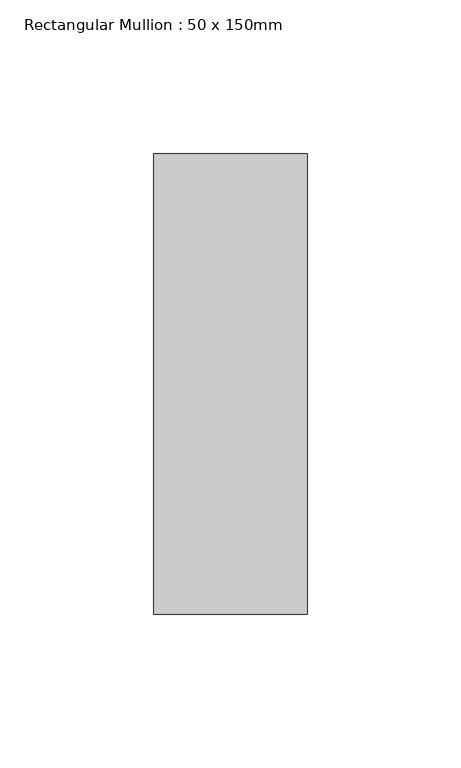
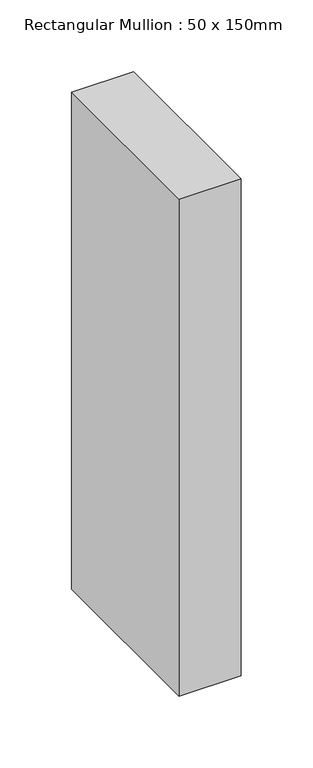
"""IFC4 building model written with IfcOpenShell, lengths in millimetres: member geometry, Rectangular Mullion : 50 x 150mm."""

import ifcopenshell
import ifcopenshell.guid

model = None  # the IFC model being written
_history = None  # IfcOwnerHistory: only IFC2X3 demands one
_inside = {}  # id of a spatial element -> (the spatial element, [elements in it])
_under = {}  # id of a project, library or spatial element -> (it, [spatial elements below it])
_declared = {}  # id of a project -> (the project, [libraries it declares])
_typed = {}  # id of a type object -> (the type object, [elements of that type])
_made_of = {}  # id of a material, layer set ... -> (it, [elements and type objects made of it])


def new_model(schema):
    """Start an empty IFC model of exactly this schema.

    Asked for "IFC4X3", IfcOpenShell would pick the latest addendum, in which some entities
    have other attributes; the version numbers below select the first issue.
    IFC2X3 requires an IfcOwnerHistory on every rooted entity: one is made here for all.
    """
    global model, _history
    if schema == "IFC4X3":
        model = ifcopenshell.file(schema_version=(4, 3, 0, 0))
    else:
        model = ifcopenshell.file(schema=schema)
    _inside.clear()
    _under.clear()
    _declared.clear()
    _typed.clear()
    _made_of.clear()
    _history = None
    if model.schema == "IFC2X3":
        org = make("IfcOrganization", Name="unknown")
        user = make(
            "IfcPersonAndOrganization",
            ThePerson=make("IfcPerson", FamilyName="unknown"),
            TheOrganization=org,
        )
        app = make(
            "IfcApplication",
            ApplicationDeveloper=org,
            Version="unknown",
            ApplicationFullName="unknown",
            ApplicationIdentifier="unknown",
        )
        _history = make(
            "IfcOwnerHistory",
            OwningUser=user,
            OwningApplication=app,
            ChangeAction="ADDED",
            CreationDate=0,
        )
    return model


def make(cls, **values):
    """One entity of the class cls with the attributes given. An attribute that is None is left unset."""
    return model.create_entity(
        cls, **{name: value for name, value in values.items() if value is not None}
    )


def rooted(cls, **values):
    """An entity with a GlobalId (a new one), such as an element, a storey or a relation."""
    return make(cls, GlobalId=ifcopenshell.guid.new(), OwnerHistory=_history, **values)


def si_unit(unit_type, name, prefix=None):
    """IfcSIUnit, for example si_unit("LENGTHUNIT", "METRE", prefix="MILLI")."""
    return make("IfcSIUnit", UnitType=unit_type, Prefix=prefix, Name=name)


def assignment(units):
    """IfcUnitAssignment: the units of a project."""
    return None if units is None else make("IfcUnitAssignment", Units=units)


def point(xyz):
    """IfcCartesianPoint."""
    return None if xyz is None else make("IfcCartesianPoint", Coordinates=xyz)


def direction(xyz):
    """IfcDirection."""
    return None if xyz is None else make("IfcDirection", DirectionRatios=xyz)


def frame(location, z_axis=None, x_axis=None):
    """IfcAxis2Placement3D, a coordinate frame: its origin and axes. An axis left out is left unset."""
    return make(
        "IfcAxis2Placement3D",
        Location=point(location),
        Axis=direction(z_axis),
        RefDirection=direction(x_axis),
    )


def origin():
    """The frame at (0, 0, 0) with its axes left unset."""
    return frame((0.0, 0.0, 0.0))


def place(relative_to, where):
    """IfcLocalPlacement: puts the frame where relative to a parent placement (None: the world)."""
    return make(
        "IfcLocalPlacement", PlacementRelTo=relative_to, RelativePlacement=where
    )


def context(
    kind, dimensions, precision=None, world=None, true_north=None, identifier=None
):
    """IfcGeometricRepresentationContext, for example the 3D "Model" context."""
    return make(
        "IfcGeometricRepresentationContext",
        ContextIdentifier=identifier,
        ContextType=kind,
        CoordinateSpaceDimension=dimensions,
        Precision=precision,
        WorldCoordinateSystem=world,
        TrueNorth=true_north,
    )


def project(units=None, contexts=None):
    """IfcProject with its units and contexts."""
    return rooted(
        "IfcProject",
        Name="project",
        RepresentationContexts=contexts,
        UnitsInContext=assignment(units),
    )


def spatial(cls, under=None, at=None, **own):
    """A site, building, storey or space (cls), placed at a placement, below another one or the project."""
    s = rooted(cls, ObjectPlacement=at, **own)
    if under is not None:
        _under.setdefault(under.id(), (under, []))[1].append(s)
    return s


def polyline(points):
    """IfcPolyline through the points."""
    return make("IfcPolyline", Points=[point(p) for p in points])


def outline(outer, holes=None, kind="AREA"):
    """IfcArbitraryClosedProfileDef: a profile drawn as a closed curve; with holes, ...WithVoids."""
    if holes is None:
        return make("IfcArbitraryClosedProfileDef", ProfileType=kind, OuterCurve=outer)
    return make(
        "IfcArbitraryProfileDefWithVoids",
        ProfileType=kind,
        OuterCurve=outer,
        InnerCurves=holes,
    )


def extrude(swept, where, along, depth):
    """IfcExtrudedAreaSolid: the profile swept, set in the frame where, extruded along a direction by depth."""
    return make(
        "IfcExtrudedAreaSolid",
        SweptArea=swept,
        Position=where,
        ExtrudedDirection=direction(along),
        Depth=depth,
    )


def shape(context_of_items, identifier, shape_type, items):
    """IfcShapeRepresentation: the items that make up one representation, for example the "Body"."""
    return make(
        "IfcShapeRepresentation",
        ContextOfItems=context_of_items,
        RepresentationIdentifier=identifier,
        RepresentationType=shape_type,
        Items=items,
    )


def source(mapping_origin, context_of_items, identifier, shape_type, items):
    """IfcRepresentationMap: a shape defined once, which mapped items show again and again."""
    return make(
        "IfcRepresentationMap",
        MappingOrigin=mapping_origin,
        MappedRepresentation=shape(context_of_items, identifier, shape_type, items),
    )


def transform(
    local_origin,
    x_axis=None,
    y_axis=None,
    z_axis=None,
    scale=None,
    scale2=None,
    scale3=None,
    uniform=True,
):
    """IfcCartesianTransformationOperator3D, or its non-uniform kind. x_axis, y_axis, z_axis: its Axis1, 2, 3."""
    if uniform:
        return make(
            "IfcCartesianTransformationOperator3D",
            Axis1=direction(x_axis),
            Axis2=direction(y_axis),
            LocalOrigin=point(local_origin),
            Scale=scale,
            Axis3=direction(z_axis),
        )
    return make(
        "IfcCartesianTransformationOperator3DnonUniform",
        Axis1=direction(x_axis),
        Axis2=direction(y_axis),
        LocalOrigin=point(local_origin),
        Scale=scale,
        Axis3=direction(z_axis),
        Scale2=scale2,
        Scale3=scale3,
    )


def mapped(mapping_source, mapping_target):
    """IfcMappedItem: shows the shape of a source again, moved by a transform."""
    return make(
        "IfcMappedItem", MappingSource=mapping_source, MappingTarget=mapping_target
    )


def made_of(thing, what):
    """Note that an element or type object is made of a material, layer set ...; save() writes the relation."""
    if what is not None:
        _made_of.setdefault(what.id(), (what, []))[1].append(thing)
    return thing


def element(
    cls,
    number,
    at=None,
    inside=None,
    cuts=None,
    type_object=None,
    material=None,
    context=None,
    identifier="Body",
    shape_type=None,
    held_by="IfcProductDefinitionShape",
    body=None,
    shapes=None,
    **own,
):
    """One element of the class cls, such as IfcWall. Its Tag is "e" and its number.

    at: its placement. inside: the storey or other place that contains it. cuts: it is an
    opening in that element (IfcRelVoidsElement). A single representation is given by context,
    identifier, shape_type and body (its items); several are given by shapes. held_by: the class
    of the entity that holds the representations. save() writes the other relations.
    """
    e = rooted(cls, Tag="e%d" % number, ObjectPlacement=at, **own)
    if body is not None:
        shapes = [shape(context, identifier, shape_type, body)]
    if shapes is not None:
        e.Representation = make(held_by, Representations=shapes)
    if inside is not None:
        _inside.setdefault(inside.id(), (inside, []))[1].append(e)
    if cuts is not None:
        rooted(
            "IfcRelVoidsElement", RelatingBuildingElement=cuts, RelatedOpeningElement=e
        )
    if type_object is not None:
        _typed.setdefault(type_object.id(), (type_object, []))[1].append(e)
    return made_of(e, material)


def aggregate(whole, parts):
    """IfcRelAggregates: a whole, such as a stair, and the parts it consists of."""
    return rooted("IfcRelAggregates", RelatingObject=whole, RelatedObjects=parts)


def save(model, path):
    """Write the relations noted so far, then the file.

    IfcRelAggregates (storeys below a building ...), IfcRelContainedInSpatialStructure (elements
    in a storey), IfcRelDefinesByType, IfcRelAssociatesMaterial and IfcRelDeclares: one each for
    every whole, place, type object, material and project.
    """
    for whole, parts in _under.values():
        aggregate(whole, parts)
    for where, things in _inside.values():
        rooted(
            "IfcRelContainedInSpatialStructure",
            RelatedElements=things,
            RelatingStructure=where,
        )
    for kind, things in _typed.values():
        rooted("IfcRelDefinesByType", RelatedObjects=things, RelatingType=kind)
    for what, things in _made_of.values():
        rooted("IfcRelAssociatesMaterial", RelatedObjects=things, RelatingMaterial=what)
    for by, libraries in _declared.values():
        rooted("IfcRelDeclares", RelatingContext=by, RelatedDefinitions=libraries)
    model.write(path)


def rectangular_mullion_50_x_150mm_3073d0f7(model_context):
    return source(origin(), model_context, "Body", "SweptSolid", [
        extrude(outline(polyline([(0.0, 75.0), (0.0, -75.0), (-50.0, -75.0), (-50.0, 75.0), (0.0, 75.0)])), frame((0.0, 0.0, -422.846895), z_axis=(0.0, 0.0, 1.0), x_axis=(1.0, 0.0, 0.0)), (0.0, 0.0, 1.0), 422.846895),
    ])


if __name__ == "__main__":
    model = new_model("IFC4")
    model_context = context("Model", 3, world=origin())
    ifc_project = project(units=[si_unit("LENGTHUNIT", "METRE", prefix="MILLI")], contexts=[model_context])
    site = spatial("IfcSite", under=ifc_project)
    building = spatial("IfcBuilding", under=site)
    placement = place(None, origin())
    rectangular_mullion_50_x_150mm_shape = rectangular_mullion_50_x_150mm_3073d0f7(model_context)
    element("IfcMember", 1, ObjectType="Rectangular Mullion : 50 x 150mm", at=placement, inside=building, context=model_context, shape_type="MappedRepresentation", body=[
        mapped(rectangular_mullion_50_x_150mm_shape, transform((0.0, 0.0, 0.0), x_axis=(1.0, 0.0, 0.0), y_axis=(0.0, 1.0, 0.0), z_axis=(0.0, 0.0, 1.0))),
    ])
    save(model, "model.ifc")
